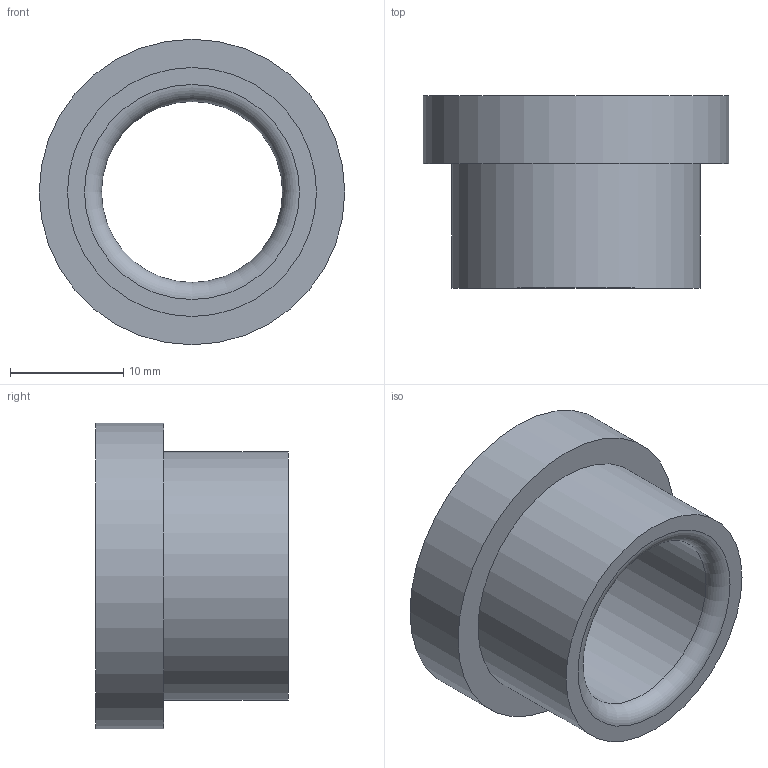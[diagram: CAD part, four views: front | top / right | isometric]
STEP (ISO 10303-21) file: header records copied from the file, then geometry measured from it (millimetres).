
FILE_DESCRIPTION(/* description */ ('STEP AP214'),/* implementation_level */ '2;1');
FILE_NAME(/* name */ '03_12_17911',/* time_stamp */ '2023-06-15T11:35:27+02:00',/* author */ ('License CC BY-ND 4.0'),/* organization */ ('CADENAS'),/* preprocessor_version */ 'ST-DEVELOPER v19.3',/* originating_system */ 'PARTsolutions',/* authorisation */ ' ');
FILE_SCHEMA (('AUTOMOTIVE_DESIGN {1 0 10303 214 3 1 1}'));
Length unit declared in the file: millimetre
Products named in the file (1): VA_Bushing_17911
Bounding box: 27 x 17 x 27 mm (x, y, z)
Volume: 4095 mm3; surface area: 2809.2 mm2
Topology: 1 solids, 1 shells, 10 faces, 16 edges, 10 vertices
Faces by surface type: cylinder 4, plane 4, torus 2
Full cylindrical faces by diameter (mm): 16 x1, 16.6 x1, 22 x1, 27 x1
Entity records: 302 total; most frequent: DIRECTION 42, CARTESIAN_POINT 31, AXIS2_PLACEMENT_3D 21, ORIENTED_EDGE 20, EDGE_LOOP 20, FACE_BOUND 20, EDGE_CURVE 10, VERTEX_POINT 10
